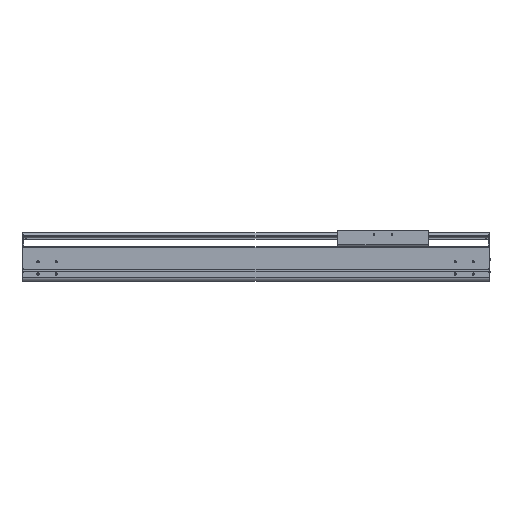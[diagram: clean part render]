
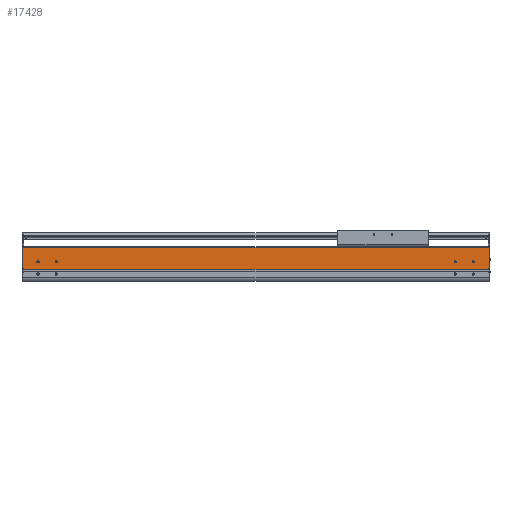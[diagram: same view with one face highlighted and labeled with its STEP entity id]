
A CAD part, top view. The second image highlights one B-rep face of the part: STEP entity #17428.
In plain terms, the highlighted planar face has unit normal (0, 0, 1).
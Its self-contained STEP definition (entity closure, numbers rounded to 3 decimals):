
#2891=DIRECTION('',(1.,0.,0.));
#2892=VECTOR('',#2891,2.);
#2893=CARTESIAN_POINT('',(-1286.,34.65,107.));
#2894=LINE('',#2893,#2892);
#2895=CARTESIAN_POINT('',(-42.,54.,107.));
#2896=DIRECTION('',(0.,0.,-1.));
#2897=DIRECTION('',(1.,0.,0.));
#2898=AXIS2_PLACEMENT_3D('',#2895,#2896,#2897);
#2900=CARTESIAN_POINT('',(-42.,54.,107.));
#2901=DIRECTION('',(0.,0.,-1.));
#2902=DIRECTION('',(-1.,0.,0.));
#2903=AXIS2_PLACEMENT_3D('',#2900,#2901,#2902);
#2905=CARTESIAN_POINT('',(-92.,54.,107.));
#2906=DIRECTION('',(0.,0.,-1.));
#2907=DIRECTION('',(1.,0.,0.));
#2908=AXIS2_PLACEMENT_3D('',#2905,#2906,#2907);
#2910=CARTESIAN_POINT('',(-92.,54.,107.));
#2911=DIRECTION('',(0.,0.,-1.));
#2912=DIRECTION('',(-1.,0.,0.));
#2913=AXIS2_PLACEMENT_3D('',#2910,#2911,#2912);
#2915=CARTESIAN_POINT('',(-1244.,54.,107.));
#2916=DIRECTION('',(0.,0.,-1.));
#2917=DIRECTION('',(1.,0.,0.));
#2918=AXIS2_PLACEMENT_3D('',#2915,#2916,#2917);
#2920=CARTESIAN_POINT('',(-1244.,54.,107.));
#2921=DIRECTION('',(0.,0.,-1.));
#2922=DIRECTION('',(-1.,0.,0.));
#2923=AXIS2_PLACEMENT_3D('',#2920,#2921,#2922);
#2925=CARTESIAN_POINT('',(-1194.,54.,107.));
#2926=DIRECTION('',(0.,0.,-1.));
#2927=DIRECTION('',(1.,0.,0.));
#2928=AXIS2_PLACEMENT_3D('',#2925,#2926,#2927);
#2930=CARTESIAN_POINT('',(-1194.,54.,107.));
#2931=DIRECTION('',(0.,0.,-1.));
#2932=DIRECTION('',(-1.,0.,0.));
#2933=AXIS2_PLACEMENT_3D('',#2930,#2931,#2932);
#2935=DIRECTION('',(0.,-1.,0.));
#2936=VECTOR('',#2935,2.55);
#2937=CARTESIAN_POINT('',(-1284.,34.65,107.));
#2938=LINE('',#2937,#2936);
#2939=DIRECTION('',(0.,-1.,0.));
#2940=VECTOR('',#2939,58.85);
#2941=CARTESIAN_POINT('',(-1286.,93.5,107.));
#2942=LINE('',#2941,#2940);
#2943=DIRECTION('',(0.,1.,0.));
#2944=VECTOR('',#2943,58.85);
#2945=CARTESIAN_POINT('',(2.,34.65,107.));
#2946=LINE('',#2945,#2944);
#2947=DIRECTION('',(0.,1.,0.));
#2948=VECTOR('',#2947,2.55);
#2949=CARTESIAN_POINT('',(0.,32.1,107.));
#2950=LINE('',#2949,#2948);
#3055=DIRECTION('',(-1.,0.,0.));
#3056=VECTOR('',#3055,1288.);
#3057=CARTESIAN_POINT('',(2.,93.5,107.));
#3058=LINE('',#3057,#3056);
#10091=DIRECTION('',(1.,0.,0.));
#10092=VECTOR('',#10091,2.);
#10093=CARTESIAN_POINT('',(0.,34.65,107.));
#10094=LINE('',#10093,#10092);
#10111=DIRECTION('',(1.,0.,0.));
#10112=VECTOR('',#10111,1284.);
#10113=CARTESIAN_POINT('',(-1284.,32.1,107.));
#10114=LINE('',#10113,#10112);
#11329=CARTESIAN_POINT('',(-1286.,34.65,107.));
#11330=VERTEX_POINT('',#11329);
#11331=CARTESIAN_POINT('',(-1286.,93.5,107.));
#11332=VERTEX_POINT('',#11331);
#11553=CARTESIAN_POINT('',(-1284.,32.1,107.));
#11554=VERTEX_POINT('',#11553);
#11625=CARTESIAN_POINT('',(0.,32.1,107.));
#11626=VERTEX_POINT('',#11625);
#12005=CARTESIAN_POINT('',(-39.5,54.,107.));
#12006=CARTESIAN_POINT('',(-44.5,54.,107.));
#12007=VERTEX_POINT('',#12005);
#12008=VERTEX_POINT('',#12006);
#12009=CARTESIAN_POINT('',(-89.5,54.,107.));
#12010=CARTESIAN_POINT('',(-94.5,54.,107.));
#12011=VERTEX_POINT('',#12009);
#12012=VERTEX_POINT('',#12010);
#12013=CARTESIAN_POINT('',(-1241.5,54.,107.));
#12014=CARTESIAN_POINT('',(-1246.5,54.,107.));
#12015=VERTEX_POINT('',#12013);
#12016=VERTEX_POINT('',#12014);
#12017=CARTESIAN_POINT('',(-1191.5,54.,107.));
#12018=CARTESIAN_POINT('',(-1196.5,54.,107.));
#12019=VERTEX_POINT('',#12017);
#12020=VERTEX_POINT('',#12018);
#13078=CARTESIAN_POINT('',(2.,34.65,107.));
#13079=VERTEX_POINT('',#13078);
#13080=CARTESIAN_POINT('',(2.,93.5,107.));
#13081=VERTEX_POINT('',#13080);
#13302=CARTESIAN_POINT('',(0.,34.65,107.));
#13303=VERTEX_POINT('',#13302);
#13614=CARTESIAN_POINT('',(-1284.,34.65,107.));
#13615=VERTEX_POINT('',#13614);
#17386=CARTESIAN_POINT('',(-642.,62.8,107.));
#17387=DIRECTION('',(0.,0.,1.));
#17388=DIRECTION('',(0.,-1.,0.));
#17389=AXIS2_PLACEMENT_3D('',#17386,#17387,#17388);
#17390=PLANE('',#17389);
#17391=ORIENTED_EDGE('',*,*,#14628,.F.);
#17392=ORIENTED_EDGE('',*,*,#17381,.F.);
#17393=ORIENTED_EDGE('',*,*,#15249,.F.);
#17395=ORIENTED_EDGE('',*,*,#17394,.F.);
#17396=ORIENTED_EDGE('',*,*,#14365,.F.);
#17398=ORIENTED_EDGE('',*,*,#17397,.F.);
#17399=ORIENTED_EDGE('',*,*,#16997,.F.);
#17401=ORIENTED_EDGE('',*,*,#17400,.F.);
#17402=EDGE_LOOP('',(#17391,#17392,#17393,#17395,#17396,#17398,#17399,#17401));
#17403=FACE_OUTER_BOUND('',#17402,.F.);
#17405=ORIENTED_EDGE('',*,*,#17404,.F.);
#17407=ORIENTED_EDGE('',*,*,#17406,.F.);
#17408=EDGE_LOOP('',(#17405,#17407));
#17409=FACE_BOUND('',#17408,.F.);
#17411=ORIENTED_EDGE('',*,*,#17410,.F.);
#17413=ORIENTED_EDGE('',*,*,#17412,.F.);
#17414=EDGE_LOOP('',(#17411,#17413));
#17415=FACE_BOUND('',#17414,.F.);
#17417=ORIENTED_EDGE('',*,*,#17416,.F.);
#17419=ORIENTED_EDGE('',*,*,#17418,.F.);
#17420=EDGE_LOOP('',(#17417,#17419));
#17421=FACE_BOUND('',#17420,.F.);
#17423=ORIENTED_EDGE('',*,*,#17422,.F.);
#17425=ORIENTED_EDGE('',*,*,#17424,.F.);
#17426=EDGE_LOOP('',(#17423,#17425));
#17427=FACE_BOUND('',#17426,.F.);
#17428=ADVANCED_FACE('',(#17403,#17409,#17415,#17421,#17427),#17390,.T.);
#2899=CIRCLE('',#2898,2.5);
#2904=CIRCLE('',#2903,2.5);
#2909=CIRCLE('',#2908,2.5);
#2914=CIRCLE('',#2913,2.5);
#2919=CIRCLE('',#2918,2.5);
#2924=CIRCLE('',#2923,2.5);
#2929=CIRCLE('',#2928,2.5);
#2934=CIRCLE('',#2933,2.5);
#14365=EDGE_CURVE('',#13079,#13081,#2946,.T.);
#14628=EDGE_CURVE('',#13615,#11554,#2938,.T.);
#15249=EDGE_CURVE('',#11332,#11330,#2942,.T.);
#16997=EDGE_CURVE('',#11626,#13303,#2950,.T.);
#17381=EDGE_CURVE('',#11330,#13615,#2894,.T.);
#17394=EDGE_CURVE('',#13081,#11332,#3058,.T.);
#17397=EDGE_CURVE('',#13303,#13079,#10094,.T.);
#17400=EDGE_CURVE('',#11554,#11626,#10114,.T.);
#17404=EDGE_CURVE('',#12011,#12012,#2909,.T.);
#17406=EDGE_CURVE('',#12012,#12011,#2914,.T.);
#17410=EDGE_CURVE('',#12015,#12016,#2919,.T.);
#17412=EDGE_CURVE('',#12016,#12015,#2924,.T.);
#17416=EDGE_CURVE('',#12019,#12020,#2929,.T.);
#17418=EDGE_CURVE('',#12020,#12019,#2934,.T.);
#17422=EDGE_CURVE('',#12007,#12008,#2899,.T.);
#17424=EDGE_CURVE('',#12008,#12007,#2904,.T.);
